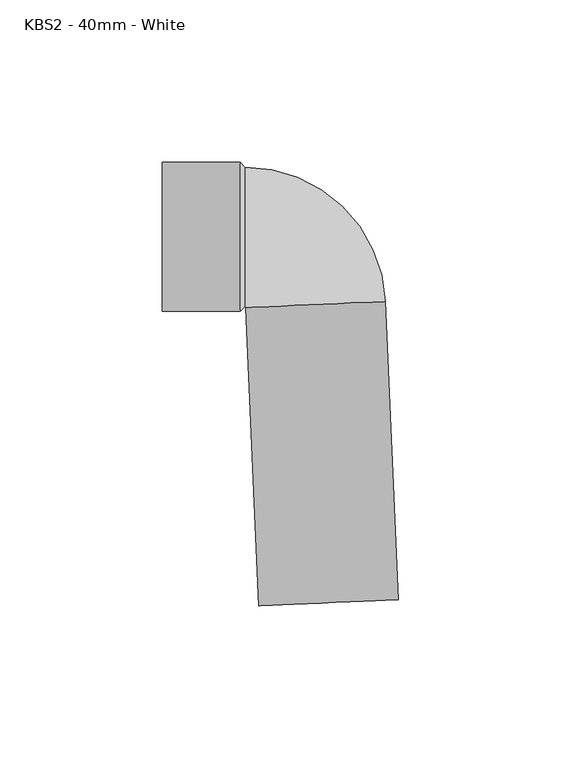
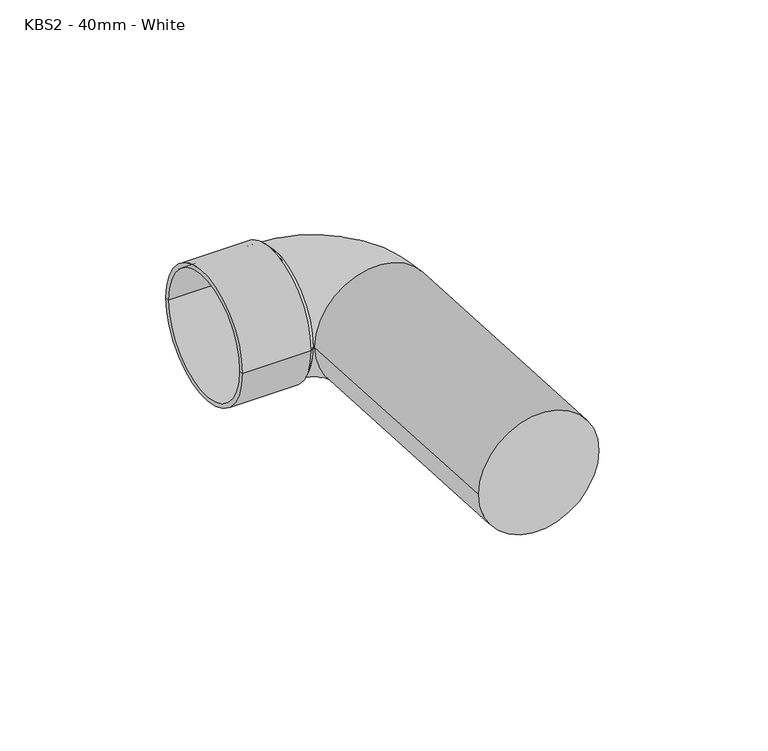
"""IFC4 building model written with IfcOpenShell, lengths in millimetres: pipe fitting geometry, MarleyPlumbingAndDrainage_PipeFitting_LongSpigotBend87.5 : KBS2 - 40mm - White."""

from ifc_helpers import new_model, si_unit, point, frame, origin, place, context, project, spatial, polyline, circle_curve, ellipse_curve, trimmed, source, transform, mapped, element, save
from ifc_brep_helpers import plane_surface, cylinder_surface, revolved_surface, advanced_brep


def kbs2_40mm_white_d1bb09a6(model_context):
    return source(origin(), model_context, "Body", "AdvancedBrep", [
        advanced_brep(
        [(-61.1357481, -21.5, 0.0), (-61.1357481, -23.0, 0.0), (-61.1357481, 23.0, 0.0), (-61.1357481, 21.5, 0.0), (-37.1357481, -21.5, 0.0), (-37.1357481, 21.5, 0.0), (-37.1357481, 0.0, 0.0), (-35.6357481, -21.5, 0.0), (-35.6357481, 0.0, 0.0), (-35.6357481, 21.5, 0.0), (-37.1357481, -23.0, 0.0), (-37.1357481, 23.0, 0.0)],
        [
            (0, 1),
            (1, 2, circle_curve(frame((-61.1357481, 0.0, 0.0), z_axis=(-1.0, 0.0, 0.0), x_axis=(0.0, 1.0, 0.0)), 23.0)),
            (2, 3),
            (3, 0, circle_curve(frame((-61.1357481, 0.0, 0.0), z_axis=(1.0, 0.0, 0.0), x_axis=(0.0, 1.0, 0.0)), 21.5)),
            (2, 1, circle_curve(frame((-61.1357481, 0.0, 0.0), z_axis=(-1.0, 0.0, 0.0), x_axis=(0.0, 1.0, 0.0)), 23.0)),
            (0, 3, circle_curve(frame((-61.1357481, 0.0, 0.0), z_axis=(1.0, 0.0, 0.0), x_axis=(0.0, 1.0, 0.0)), 21.5)),
            (4, 0),
            (3, 5),
            (5, 4, circle_curve(frame((-37.1357481, 0.0, 0.0), z_axis=(1.0, 0.0, 0.0), x_axis=(0.0, 1.0, 0.0)), 21.5)),
            (4, 5, circle_curve(frame((-37.1357481, 0.0, 0.0), z_axis=(1.0, 0.0, 0.0), x_axis=(0.0, 1.0, 0.0)), 21.5)),
            (6, 4),
            (5, 6),
            (7, 8),
            (8, 9),
            (9, 7, circle_curve(frame((-35.6357481, 0.0, 0.0), z_axis=(1.0, 0.0, 0.0), x_axis=(0.0, 1.0, 0.0)), 21.5)),
            (7, 9, circle_curve(frame((-35.6357481, 0.0, 0.0), z_axis=(1.0, 0.0, 0.0), x_axis=(0.0, 1.0, 0.0)), 21.5)),
            (10, 7),
            (9, 11),
            (11, 10, circle_curve(frame((-37.1357481, 0.0, 0.0), z_axis=(1.0, 0.0, 0.0), x_axis=(0.0, 1.0, 0.0)), 23.0)),
            (10, 11, circle_curve(frame((-37.1357481, 0.0, 0.0), z_axis=(1.0, 0.0, 0.0), x_axis=(0.0, 1.0, 0.0)), 23.0)),
            (1, 10),
            (11, 2),
        ],
        [
            plane_surface(frame((-61.1357481, 0.0, 0.0), z_axis=(-1.0, 0.0, 0.0), x_axis=(0.0, 1.0, 0.0))),
            revolved_surface(polyline([(-61.1357481, 21.5, 0.0), (-37.1357481, 21.5, 0.0)]), (-99.118788, 0.0, 0.0), (-1.0, 0.0, 0.0)),
            plane_surface(frame((-37.1357481, 0.0, 0.0), z_axis=(-1.0, 0.0, 0.0), x_axis=(0.0, 1.0, 0.0))),
            plane_surface(frame((-35.6357481, 0.0, 0.0), z_axis=(1.0, 0.0, 0.0), x_axis=(0.0, 1.0, 0.0))),
            revolved_surface(polyline([(-35.6357481, 21.5, 0.0), (-37.1357481, 23.0, 0.0)]), (-99.118788, 0.0, 0.0), (-1.0, 0.0, 0.0)),
            cylinder_surface(frame((-99.118788, 0.0, 0.0), z_axis=(-1.0, 0.0, 0.0), x_axis=(0.0, 1.0, 0.0)), 23.0),
        ],
        [
            (0, [[1, 2, 3, 4]]),
            (0, [[-3, 5, -1, 6]]),
            (1, [[7, -4, 8, 9]]),
            (1, [[-8, -6, -7, 10]]),
            (2, [[11, -9, 12]]),
            (2, [[-12, -10, -11]]),
            (3, [[13, 14, 15]]),
            (3, [[-14, -13, 16]]),
            (4, [[17, -15, 18, 19]]),
            (4, [[-18, -16, -17, 20]]),
            (5, [[21, -19, 22, -2]]),
            (5, [[-22, -20, -21, -5]]),
        ],
    ),
        advanced_brep(
        [(-35.6357481, 21.5, 0.0), (-35.6357481, -21.5, 0.0), (-35.3360336, -21.7869142, 0.0), (7.6230399, -19.9112805, 0.0), (11.6360236, -111.8237169, 0.0), (-31.32305, -113.6993506, 0.0)],
        [
            (0, 1, circle_curve(frame((-35.6357481, 0.0, 0.0), z_axis=(-1.0, 0.0, 0.0), x_axis=(0.0, -1.0, 0.0)), 21.5)),
            (1, 0, circle_curve(frame((-35.6357481, 0.0, 0.0), z_axis=(-1.0, 0.0, 0.0), x_axis=(0.0, -1.0, 0.0)), 21.5)),
            (2, 3, circle_curve(frame((-13.8564968, -20.8490974, 0.0), z_axis=(-0.043619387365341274, 0.9990482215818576, 0.0), x_axis=(-0.9990482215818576, -0.043619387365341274, 0.0)), 21.5)),
            (3, 0, circle_curve(frame((-35.6357481, -21.8, 0.0), z_axis=(0.0, 0.0, 1.0), x_axis=(0.0, 1.0, 0.0)), 43.3)),
            (1, 2, circle_curve(frame((-35.6357481, -21.8, 0.0), z_axis=(0.0, 0.0, -1.0), x_axis=(0.0, 1.0, 0.0)), 0.3)),
            (3, 2, circle_curve(frame((-13.8564968, -20.8490974, 0.0), z_axis=(-0.0436193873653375, 0.9990482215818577, 0.0), x_axis=(-0.9990482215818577, -0.0436193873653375, 0.0)), 21.5)),
            (4, 5, circle_curve(frame((-9.8435132, -112.7615337, 0.0), z_axis=(0.04361938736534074, -0.9990482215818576, 0.0), x_axis=(-0.9990482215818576, -0.04361938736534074, 0.0)), 21.5)),
            (5, 4, circle_curve(frame((-9.8435132, -112.7615337, 0.0), z_axis=(0.04361938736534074, -0.9990482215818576, 0.0), x_axis=(-0.9990482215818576, -0.04361938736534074, 0.0)), 21.5)),
            (2, 5),
            (4, 3),
        ],
        [
            plane_surface(frame((-35.6357481, 0.0, 0.0), z_axis=(-1.0, 0.0, 0.0), x_axis=(0.0, 0.0, 1.0))),
            revolved_surface(trimmed(ellipse_curve(frame((-35.6357481, 0.0, 0.0), z_axis=(1.0, 0.0, 0.0), x_axis=(0.0, -1.0, 0.0)), 21.5, 21.5), [point((-35.6357481, 21.5, 0.0))], [point((-35.6357481, -21.5, 0.0))], True, "CARTESIAN"), (-35.6357481, -21.8, 0.0), (0.0, 0.0, 1.0)),
            revolved_surface(trimmed(ellipse_curve(frame((-35.6357481, 0.0, 0.0), z_axis=(1.0, 0.0, 0.0), x_axis=(0.0, -1.0, 0.0)), 21.5, 21.5), [point((-35.6357481, -21.5, 0.0))], [point((-35.6357481, 21.5, 0.0))], True, "CARTESIAN"), (-35.6357481, -21.8, 0.0), (0.0, 0.0, 1.0)),
            plane_surface(frame((-9.8435132, -112.7615337, 0.0), z_axis=(0.04361938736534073, -0.9990482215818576, 0.0), x_axis=(0.0, 0.0, 1.0))),
            cylinder_surface(frame((-13.8564968, -20.8490974, 0.0), z_axis=(-0.04361938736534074, 0.9990482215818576, 0.0), x_axis=(-0.9990482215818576, -0.04361938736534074, 0.0)), 21.5),
        ],
        [
            (0, [[1, 2]]),
            (1, [[3, 4, -2, 5]]),
            (2, [[6, -5, -1, -4]]),
            (3, [[7, 8]]),
            (4, [[9, -7, 10, -3]]),
            (4, [[-10, -8, -9, -6]]),
        ],
    ),
    ])


if __name__ == "__main__":
    model = new_model("IFC4")
    model_context = context("Model", 3, world=origin())
    ifc_project = project(units=[si_unit("LENGTHUNIT", "METRE", prefix="MILLI")], contexts=[model_context])
    site = spatial("IfcSite", under=ifc_project)
    building = spatial("IfcBuilding", under=site)
    placement = place(None, origin())
    kbs2_40mm_white_shape = kbs2_40mm_white_d1bb09a6(model_context)
    element("IfcPipeFitting", 1, ObjectType="MarleyPlumbingAndDrainage_PipeFitting_LongSpigotBend87.5 : KBS2 - 40mm - White", at=placement, inside=building, context=model_context, shape_type="MappedRepresentation", body=[
        mapped(kbs2_40mm_white_shape, transform((0.0, 0.0, 0.0), x_axis=(1.0, 0.0, 0.0), y_axis=(0.0, 1.0, 0.0), z_axis=(0.0, 0.0, 1.0))),
    ])
    save(model, "model.ifc")
